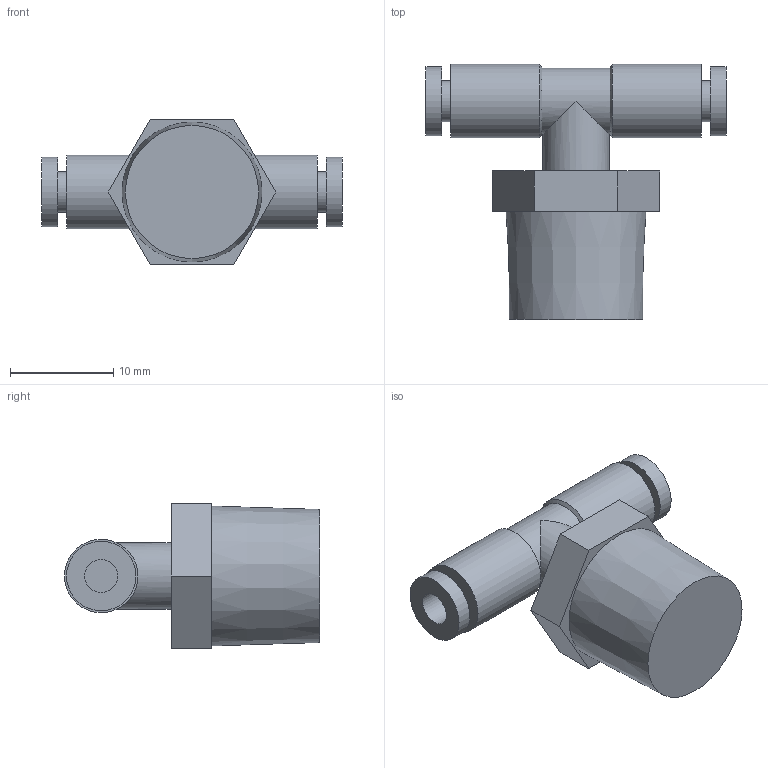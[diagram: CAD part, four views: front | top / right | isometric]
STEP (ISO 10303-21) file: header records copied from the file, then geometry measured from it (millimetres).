
FILE_DESCRIPTION(/* description */ ('STEP AP214'),/* implementation_level */ '2;1');
FILE_NAME(/* name */ 'KQ2T23-02AS',/* time_stamp */ '2024-10-24T14:01:49+02:00',/* author */ ('License CC BY-ND 4.0'),/* organization */ ('CADENAS'),/* preprocessor_version */ 'ST-DEVELOPER v19.3',/* originating_system */ 'PARTsolutions',/* authorisation */ ' ');
FILE_SCHEMA (('AUTOMOTIVE_DESIGN {1 0 10303 214 3 1 1}'));
Length unit declared in the file: millimetre
Products named in the file (1): KQ2T23-02AS
Bounding box: 29 x 24.65 x 14 mm (x, y, z)
Volume: 3042.1 mm3; surface area: 2027.6 mm2
Topology: 1 solids, 1 shells, 30 faces, 55 edges, 35 vertices
Faces by surface type: plane 17, cylinder 10, cone 3
Full cylindrical faces by diameter (mm): 3.2 x2, 3.95 x2, 6.4 x2, 6.7 x2, 7.1 x2
Entity records: 702 total; most frequent: DIRECTION 126, CARTESIAN_POINT 107, ORIENTED_EDGE 82, AXIS2_PLACEMENT_3D 54, EDGE_LOOP 52, FACE_BOUND 52, EDGE_CURVE 41, VERTEX_POINT 35
